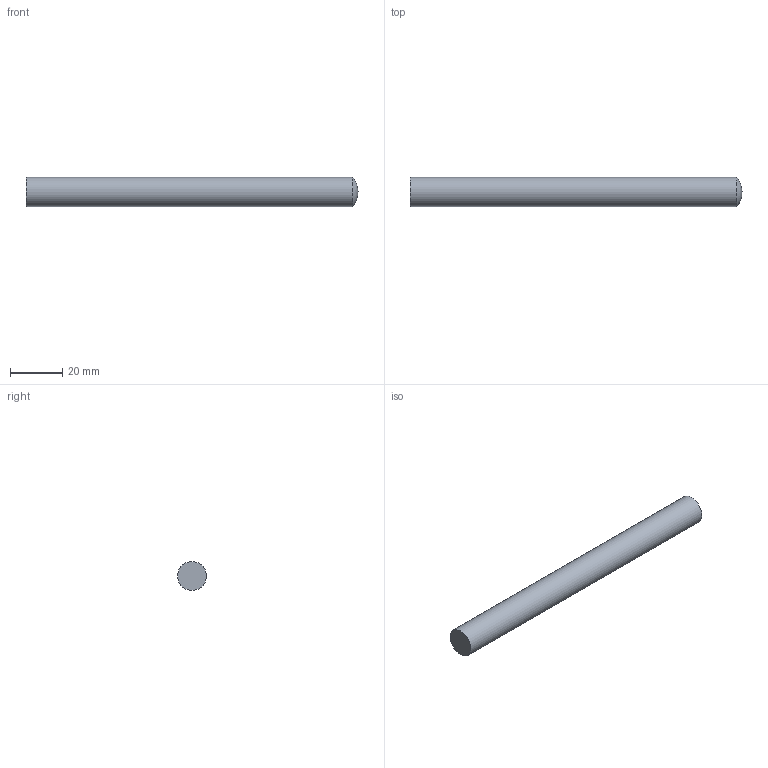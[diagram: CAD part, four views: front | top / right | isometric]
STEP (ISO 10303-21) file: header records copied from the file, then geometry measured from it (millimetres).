
FILE_DESCRIPTION(/* description */ (''),/* implementation_level */ '2;1');
FILE_NAME(/* name */ 'F:\CAD files\Itr\3D MARKETING MODELS\GRIPS\G1122-2\G1122-2.stp',/* time_stamp */ '2021-08-11T17:43:01-04:00',/* author */ ('mlampen'),/* organization */ (''),/* preprocessor_version */ 'ST-DEVELOPER v18.1',/* originating_system */ 'AutoCAD Mechanical',/* authorisation */ '');
FILE_SCHEMA (('AUTOMOTIVE_DESIGN { 1 0 10303 214 3 1 1 }'));
Length unit declared in the file: inch
Products named in the file (1): Product
Bounding box: 127 x 11.11 x 11.11 mm (x, y, z)
Volume: 12226.7 mm3; surface area: 4571.5 mm2
Topology: 1 solids, 1 shells, 3 faces, 5 edges, 3 vertices
Faces by surface type: sphere 1, cylinder 1, plane 1
Full cylindrical faces by diameter (mm): 11.112 x1
Entity records: 94 total; most frequent: DIRECTION 15, CARTESIAN_POINT 11, ORIENTED_EDGE 8, AXIS2_PLACEMENT_3D 7, EDGE_CURVE 4, FACE_OUTER_BOUND 3, EDGE_LOOP 3, CIRCLE 3
